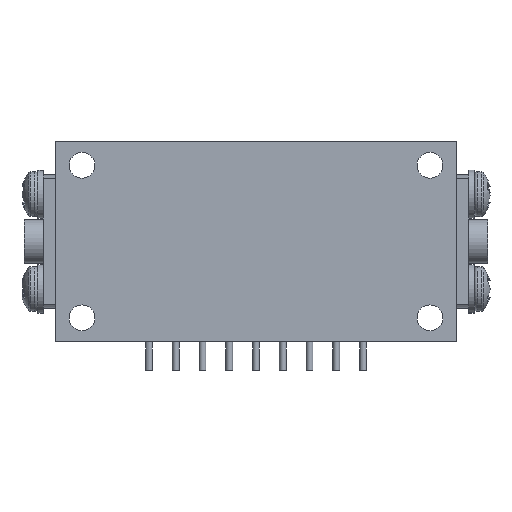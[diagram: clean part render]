
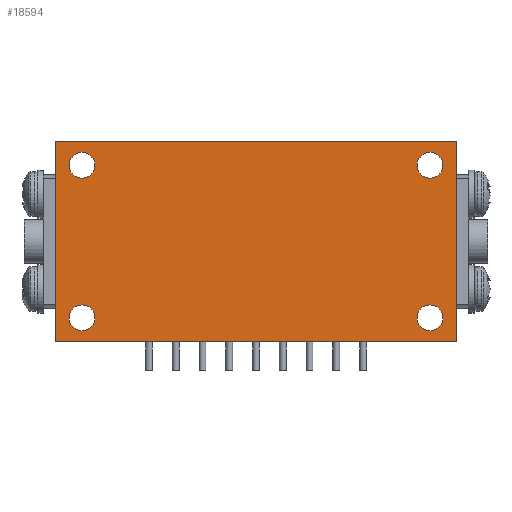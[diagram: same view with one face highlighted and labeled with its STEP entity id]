
A CAD part, front view. The second image highlights one B-rep face of the part: STEP entity #18594.
In plain terms, the highlighted planar face has unit normal (0, -1, 0).
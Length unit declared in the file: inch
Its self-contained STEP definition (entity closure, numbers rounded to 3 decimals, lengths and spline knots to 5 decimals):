
#62 = VERTEX_POINT ( 'NONE', #11550 ) ;
#858 = EDGE_CURVE ( 'NONE', #21349, #30122, #4101, .T. ) ;
#879 = EDGE_LOOP ( 'NONE', ( #10566 ) ) ;
#1231 = CARTESIAN_POINT ( 'NONE',  ( 38.81175, 39.00942, 39.66404 ) ) ;
#1611 = DIRECTION ( 'NONE',  ( -1., 0., 0. ) ) ;
#2086 = EDGE_CURVE ( 'NONE', #7402, #7402, #28437, .T. ) ;
#2261 = EDGE_CURVE ( 'NONE', #36222, #36222, #34637, .T. ) ;
#2273 = EDGE_LOOP ( 'NONE', ( #6888 ) ) ;
#2413 = CIRCLE ( 'NONE', #3062, 0.048 ) ;
#2823 = DIRECTION ( 'NONE',  ( 0., 0., 1. ) ) ;
#3062 = AXIS2_PLACEMENT_3D ( 'NONE', #10005, #33153, #24725 ) ;
#3091 = DIRECTION ( 'NONE',  ( 0., 1., 0. ) ) ;
#3480 = ORIENTED_EDGE ( 'NONE', *, *, #19836, .F. ) ;
#3911 = CARTESIAN_POINT ( 'NONE',  ( 38.81175, 39.00942, 38.91404 ) ) ;
#3912 = CARTESIAN_POINT ( 'NONE',  ( 40.31175, 39.00942, 38.91404 ) ) ;
#3981 = LINE ( 'NONE', #15488, #4490 ) ;
#4101 = LINE ( 'NONE', #3912, #6827 ) ;
#4281 = DIRECTION ( 'NONE',  ( 0., 0., -1. ) ) ;
#4490 = VECTOR ( 'NONE', #32438, 39.37008 ) ;
#4968 = CARTESIAN_POINT ( 'NONE',  ( 40.31175, 39.00942, 38.91404 ) ) ;
#5555 = CARTESIAN_POINT ( 'NONE',  ( 38.91175, 39.00942, 39.57404 ) ) ;
#6271 = CARTESIAN_POINT ( 'NONE',  ( 38.81175, 39.00942, 38.91404 ) ) ;
#6827 = VECTOR ( 'NONE', #4281, 39.37008 ) ;
#6888 = ORIENTED_EDGE ( 'NONE', *, *, #2086, .T. ) ;
#7239 = FACE_BOUND ( 'NONE', #34324, .T. ) ;
#7402 = VERTEX_POINT ( 'NONE', #13821 ) ;
#8399 = EDGE_CURVE ( 'NONE', #14202, #14202, #2413, .T. ) ;
#8701 = EDGE_CURVE ( 'NONE', #62, #62, #20593, .T. ) ;
#9339 = DIRECTION ( 'NONE',  ( 0., 0., 1. ) ) ;
#9898 = FACE_BOUND ( 'NONE', #2273, .T. ) ;
#9936 = VERTEX_POINT ( 'NONE', #6271 ) ;
#10005 = CARTESIAN_POINT ( 'NONE',  ( 40.21175, 39.00942, 39.00404 ) ) ;
#10083 = DIRECTION ( 'NONE',  ( 0., 1., 0. ) ) ;
#10566 = ORIENTED_EDGE ( 'NONE', *, *, #2261, .T. ) ;
#10730 = ORIENTED_EDGE ( 'NONE', *, *, #20792, .F. ) ;
#11550 = CARTESIAN_POINT ( 'NONE',  ( 38.91175, 39.00942, 39.62204 ) ) ;
#12169 = AXIS2_PLACEMENT_3D ( 'NONE', #35997, #27550, #12851 ) ;
#12227 = ORIENTED_EDGE ( 'NONE', *, *, #30272, .F. ) ;
#12544 = FACE_BOUND ( 'NONE', #13178, .T. ) ;
#12851 = DIRECTION ( 'NONE',  ( 0., 0., 1. ) ) ;
#13098 = FACE_BOUND ( 'NONE', #879, .T. ) ;
#13178 = EDGE_LOOP ( 'NONE', ( #32976 ) ) ;
#13821 = CARTESIAN_POINT ( 'NONE',  ( 40.21175, 39.00942, 39.62204 ) ) ;
#14202 = VERTEX_POINT ( 'NONE', #28896 ) ;
#14557 = AXIS2_PLACEMENT_3D ( 'NONE', #5555, #3091, #17064 ) ;
#15488 = CARTESIAN_POINT ( 'NONE',  ( 38.81175, 39.00942, 39.66404 ) ) ;
#16936 = ORIENTED_EDGE ( 'NONE', *, *, #858, .F. ) ;
#17064 = DIRECTION ( 'NONE',  ( 0., 0., 1. ) ) ;
#18594 = ADVANCED_FACE ( 'NONE', ( #23884, #13098, #7239, #9898, #12544 ), #21597, .F. ) ;
#18607 = ORIENTED_EDGE ( 'NONE', *, *, #8701, .T. ) ;
#19836 = EDGE_CURVE ( 'NONE', #29654, #21349, #3981, .T. ) ;
#20206 = DIRECTION ( 'NONE',  ( 0., 1., 0. ) ) ;
#20251 = CARTESIAN_POINT ( 'NONE',  ( 38.81175, 39.00942, 38.91404 ) ) ;
#20593 = CIRCLE ( 'NONE', #14557, 0.048 ) ;
#20792 = EDGE_CURVE ( 'NONE', #30122, #9936, #35549, .T. ) ;
#20998 = LINE ( 'NONE', #20251, #22400 ) ;
#21349 = VERTEX_POINT ( 'NONE', #28642 ) ;
#21597 = PLANE ( 'NONE',  #36432 ) ;
#21931 = CARTESIAN_POINT ( 'NONE',  ( 38.91175, 39.00942, 39.05204 ) ) ;
#22400 = VECTOR ( 'NONE', #23609, 39.37008 ) ;
#23609 = DIRECTION ( 'NONE',  ( 0., 0., 1. ) ) ;
#23884 = FACE_OUTER_BOUND ( 'NONE', #34702, .T. ) ;
#24429 = AXIS2_PLACEMENT_3D ( 'NONE', #26239, #20206, #2823 ) ;
#24725 = DIRECTION ( 'NONE',  ( 0., 0., 1. ) ) ;
#26239 = CARTESIAN_POINT ( 'NONE',  ( 38.91175, 39.00942, 39.00404 ) ) ;
#27550 = DIRECTION ( 'NONE',  ( 0., 1., 0. ) ) ;
#28437 = CIRCLE ( 'NONE', #12169, 0.048 ) ;
#28642 = CARTESIAN_POINT ( 'NONE',  ( 40.31175, 39.00942, 39.66404 ) ) ;
#28896 = CARTESIAN_POINT ( 'NONE',  ( 40.21175, 39.00942, 39.05204 ) ) ;
#29654 = VERTEX_POINT ( 'NONE', #1231 ) ;
#30122 = VERTEX_POINT ( 'NONE', #4968 ) ;
#30272 = EDGE_CURVE ( 'NONE', #9936, #29654, #20998, .T. ) ;
#32438 = DIRECTION ( 'NONE',  ( 1., 0., 0. ) ) ;
#32507 = CARTESIAN_POINT ( 'NONE',  ( 39.56175, 39.00942, 39.28904 ) ) ;
#32848 = VECTOR ( 'NONE', #1611, 39.37008 ) ;
#32976 = ORIENTED_EDGE ( 'NONE', *, *, #8399, .T. ) ;
#33153 = DIRECTION ( 'NONE',  ( 0., 1., 0. ) ) ;
#34324 = EDGE_LOOP ( 'NONE', ( #18607 ) ) ;
#34637 = CIRCLE ( 'NONE', #24429, 0.048 ) ;
#34702 = EDGE_LOOP ( 'NONE', ( #12227, #10730, #16936, #3480 ) ) ;
#35549 = LINE ( 'NONE', #3911, #32848 ) ;
#35997 = CARTESIAN_POINT ( 'NONE',  ( 40.21175, 39.00942, 39.57404 ) ) ;
#36222 = VERTEX_POINT ( 'NONE', #21931 ) ;
#36432 = AXIS2_PLACEMENT_3D ( 'NONE', #32507, #10083, #9339 ) ;
